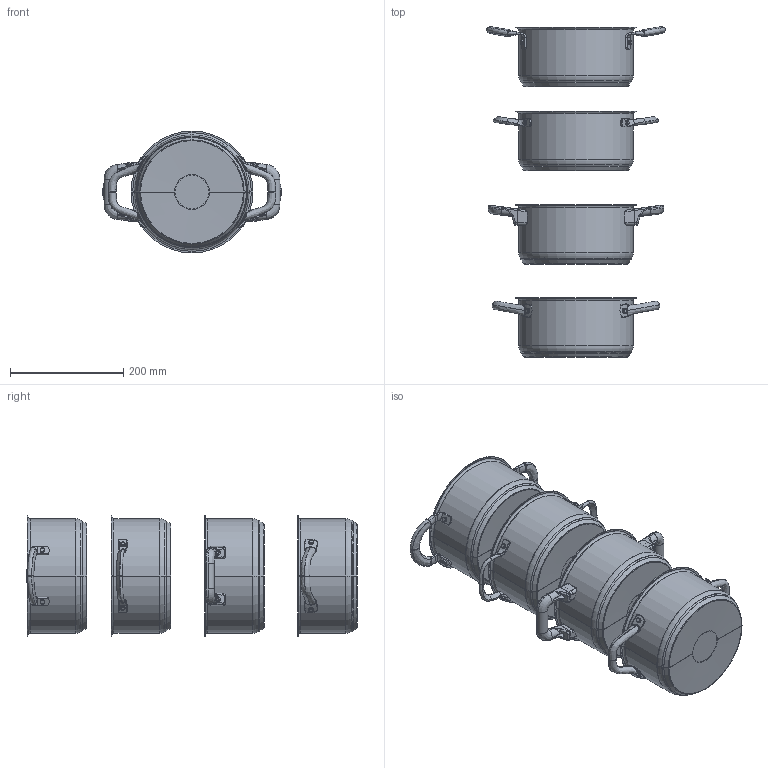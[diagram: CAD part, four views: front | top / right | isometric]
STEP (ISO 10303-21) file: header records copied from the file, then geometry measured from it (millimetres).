
FILE_DESCRIPTION((''),'2;1');
FILE_NAME('200-_1_0001_ASM','2024-03-30T17:06:03',('3'),(''),'CREO PARAMETRIC BY PTC INC, 2021164','CREO PARAMETRIC BY PTC INC, 2021164','');
FILE_SCHEMA(('CONFIG_CONTROL_DESIGN'));
Length unit declared in the file: millimetre
Products named in the file (43): LF-B-200_3_1_1_1_1; LF-B-200_3_2_1_1_1; LF-B-200_3_ASM_1_ASM_1_1_ASM; 200-0001_4_ASM_1_1_1; LFB-2000_ASM_3_ASM_1_ASM_1_1_ASM; CEER_3_ASM_1_1_1; GAIEROK_5_ASM_1_1_1; LF-B-200_ASM_1_ASM_1_ASM_1_1_ASM; LF-B-200_ASM99999999999_ASM_1_1_ASM; LF-B-200_ASM_1_1_ASM; 200_1_1_2_1; 200_1_1_2_2; 200_1_1_2_3; 200_1_1_2_ASM; 00_ASM_1_1_ASM; 0309-200_ASM_1_1_ASM; LF-B-200X120-0001_2_1_2_ASM; MANIFOLD_SOLID_BREP_7721_1_1; MANIFOLD_SOLID_BREP_8679_1_1; MANIFOLD_SOLID_BREP_9636_1_1; 20--24--CEER_ASM_ASM_1_1_ASM; 20--24--CEER_ASM_1_1_ASM; 200_ASM_1_1_ASM; 200-_2_0001_ASM; LF-B-200_2_1_2_1; LF-B-200_2_1_2_2; LF-B-200_2_1_2_ASM; 00_3_1_2_1; 00_3_1_2_2; 00_3_1_2_3; 00_3_1_2_ASM; 200_ASM_6_1_ASM; 200-_3_0001_ASM; 20SHEN_3_1_2_ASM; GAIER_1_ASM_1_ASM_1_1_ASM; CEER_1_1_1_1_1_1; CEER_1_2_1_1_1_1; CEER_1_ASM_1_1_ASM_1_1_ASM; ASM0001_ASM_1_1_2_ASM; 200X105_1_1_2_ASM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
Assembly tree (49 placements, depth 8):
  200-_1_0001_ASM
    0309-200_ASM_1_1_ASM
      LF-B-200_ASM_1_1_ASM
        LF-B-200_ASM99999999999_ASM_1_1_ASM
          LF-B-200_ASM_1_ASM_1_ASM_1_1_ASM
            LFB-2000_ASM_3_ASM_1_ASM_1_1_ASM
              LF-B-200_3_ASM_1_ASM_1_1_ASM
                LF-B-200_3_1_1_1_1
                LF-B-200_3_2_1_1_1
              200-0001_4_ASM_1_1_1
            CEER_3_ASM_1_1_1  x2
            GAIEROK_5_ASM_1_1_1
      00_ASM_1_1_ASM  x2
        200_1_1_2_ASM
          200_1_1_2_1
          200_1_1_2_2
          200_1_1_2_3
    200-_2_0001_ASM
      200_ASM_1_1_ASM
        LF-B-200X120-0001_2_1_2_ASM
        20--24--CEER_ASM_1_1_ASM  x2
          20--24--CEER_ASM_ASM_1_1_ASM
            MANIFOLD_SOLID_BREP_7721_1_1
            MANIFOLD_SOLID_BREP_8679_1_1
            MANIFOLD_SOLID_BREP_9636_1_1
    LFB-2000_ASM_3_ASM_1_ASM_1_1_ASM
      LF-B-200_3_ASM_1_ASM_1_1_ASM
        LF-B-200_3_1_1_1_1
        LF-B-200_3_2_1_1_1
      200-0001_4_ASM_1_1_1
    200-_3_0001_ASM
      200_ASM_6_1_ASM
        LF-B-200_2_1_2_ASM
          LF-B-200_2_1_2_1
          LF-B-200_2_1_2_2
        00_3_1_2_ASM  x2
          00_3_1_2_1
          00_3_1_2_2
          00_3_1_2_3
    200-_4_0001_ASM
      200_ASM_3_1_2_ASM
        20SHEN_3_1_2_ASM
        GAIER_1_ASM_1_ASM_1_1_ASM
        ASM0001_ASM_1_1_2_ASM  x2
          CEER_1_ASM_1_1_ASM_1_1_ASM
            CEER_1_1_1_1_1_1
            CEER_1_2_1_1_1_1
        200X105_1_1_2_ASM
    LF-B-200_2_1_2_ASM
      LF-B-200_2_1_2_1
      LF-B-200_2_1_2_2
Bounding box: 314.84 x 582.55 x 215 mm (x, y, z)
Volume: 555108 mm3; surface area: 1132475.9 mm2
Topology: 30 solids, 30 shells, 1304 faces, 2990 edges, 1722 vertices
Faces by surface type: bspline 636, cylinder 304, plane 164, torus 112, sphere 48, cone 40
Entity records: 61335 total; most frequent: CARTESIAN_POINT 48401, ORIENTED_EDGE 2938, DIRECTION 1887, EDGE_CURVE 1469, VERTEX_POINT 861, B_SPLINE_CURVE_WITH_KNOTS 844, AXIS2_PLACEMENT_3D 793, EDGE_LOOP 686
